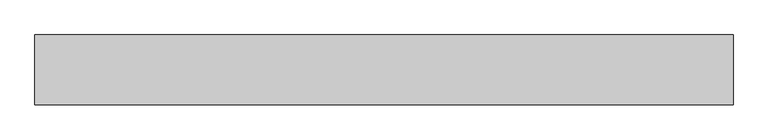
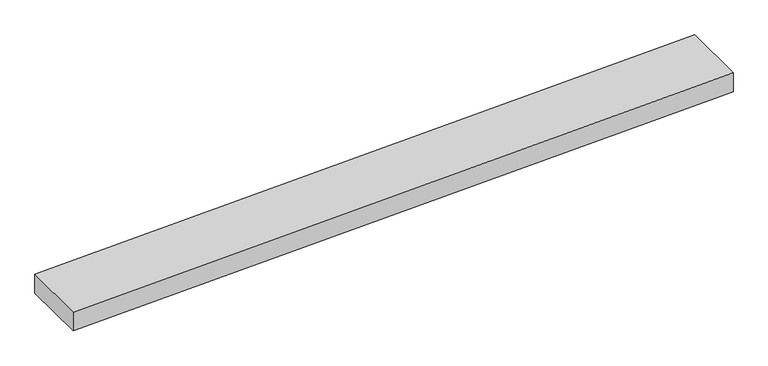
"""IFC4 building model written with IfcOpenShell, lengths in millimetres: ramp geometry, Ramp:24_RA_hellingbaan_beton_prefab_300:77835:1 : Ramp:24_RA_hellingbaan_beton_prefab_300:77835:1."""

from ifc_helpers import new_model, si_unit, frame, origin, place, context, project, spatial, polyline, outline, extrude, source, transform, mapped, element, save


def ramp_5bd644cd(model_context):
    return source(origin(), model_context, "Body", "SweptSolid", [
        extrude(outline(polyline([(33.1667129, 27650.3204725), (333.3333333, 27650.3204725), (0.0, 17650.3204725), (-300.1666204, 17650.3204725), (33.1667129, 27650.3204725)])), frame((0.0, -33650.6479444, 0.0), z_axis=(0.0, 1.0, 0.0), x_axis=(0.0, 0.0, 1.0)), (0.0, 0.0, 1.0), 1000.0),
    ])


if __name__ == "__main__":
    model = new_model("IFC4")
    model_context = context("Model", 3, world=origin())
    ifc_project = project(units=[si_unit("LENGTHUNIT", "METRE", prefix="MILLI")], contexts=[model_context])
    site = spatial("IfcSite", under=ifc_project)
    building = spatial("IfcBuilding", under=site)
    placement = place(None, origin())
    ramp_shape = ramp_5bd644cd(model_context)
    element("IfcRamp", 1, ObjectType="Ramp:24_RA_hellingbaan_beton_prefab_300:77835:1 : Ramp:24_RA_hellingbaan_beton_prefab_300:77835:1", at=placement, inside=building, context=model_context, shape_type="MappedRepresentation", body=[
        mapped(ramp_shape, transform((0.0, 0.0, 0.0), x_axis=(1.0, 0.0, 0.0), y_axis=(0.0, 1.0, 0.0), z_axis=(0.0, 0.0, 1.0))),
    ])
    save(model, "model.ifc")
